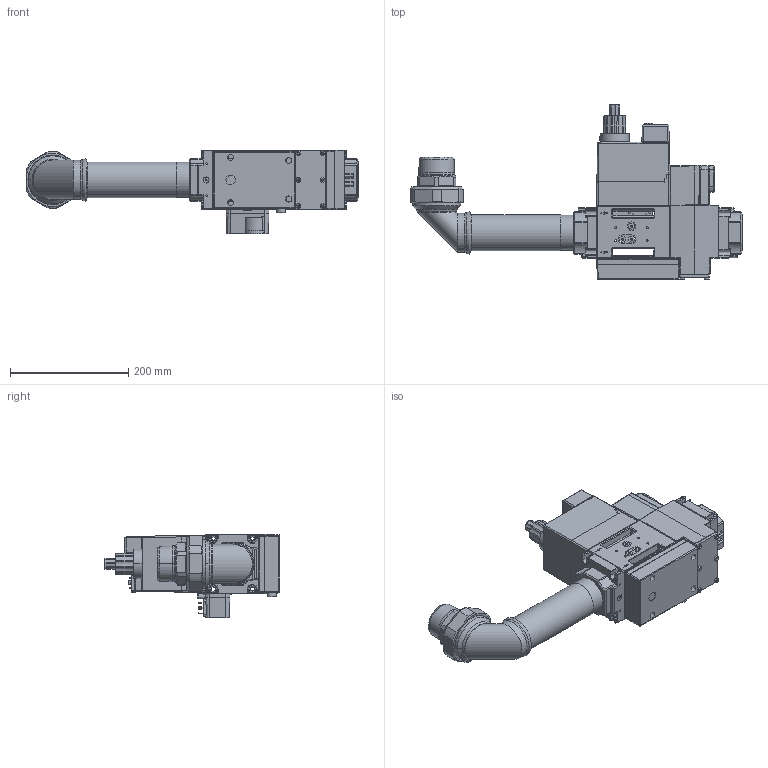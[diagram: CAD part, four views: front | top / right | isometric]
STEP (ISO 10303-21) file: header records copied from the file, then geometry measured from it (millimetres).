
FILE_DESCRIPTION (( 'STEP AP214' ), '1' );
FILE_NAME ('19990562.STEP', '2021-07-02T10:16:11', ( '' ), ( '' ), 'SwSTEP 2.0', 'SolidWorks 2018', '' );
FILE_SCHEMA (( 'AUTOMOTIVE_DESIGN' ));
Length unit declared in the file: millimetre
Products named in the file (1): 19990562
Bounding box: 560.7 x 296 x 141.58 mm (x, y, z)
Surface area: 375393.3 mm2 (no closed solid volume)
Topology: 0 solids, 33 shells, 1323 faces, 4464 edges, 3051 vertices
Faces by surface type: plane 470, cylinder 448, bspline 316, torus 53, cone 22, sphere 14
Full cylindrical faces by diameter (mm): 0.7 x1, 1.5 x3, 2.5 x2, 3.7 x3, 4 x4, 6.647 x6, 6.917 x4, 8 x1, 8.5 x6, 8.57 x1, 9 x1, 10 x3, 10.5 x5, 11 x4, 15 x2, 15.3 x1, 26 x1, 36.15 x1, 50 x1, 57 x1, 59.614 x2, 60.3 x1, 66 x2, 70 x1, 73.45 x1, 74 x1, 81.52 x1
Entity records: 91450 total; most frequent: CARTESIAN_POINT 43428, ORIENTED_EDGE 7025, DIRECTION 5543, EDGE_CURVE 4293, VERTEX_POINT 3014, LINE 1969, VECTOR 1969, AXIS2_PLACEMENT_3D 1787
